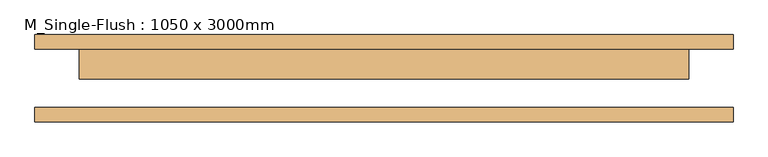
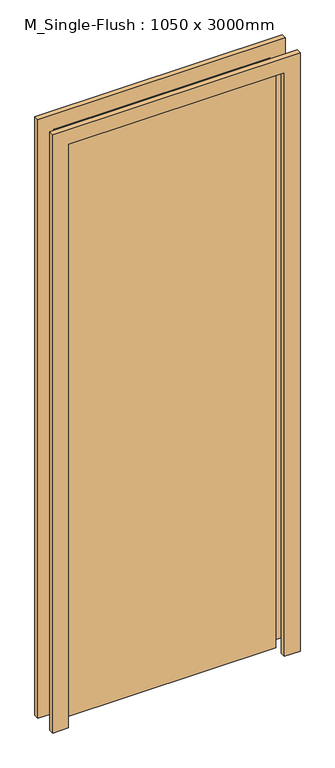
"""IFC4 building model written with IfcOpenShell, lengths in millimetres: door geometry, M_Single-Flush : 1050 x 3000mm."""

from ifc_helpers import new_model, si_unit, frame, origin, origin_with_axes, place, context, project, spatial, polyline, outline, extrude, source, transform, mapped, element, save


def m_single_flush_1050_x_3000mm_ec5adb8e(model_context):
    return source(origin(), model_context, "Body", "SweptSolid", [
        extrude(outline(polyline([(3076.0, -601.0), (0.0, -601.0), (0.0, -525.0), (3000.0, -525.0), (3000.0, 525.0), (0.0, 525.0), (0.0, 601.0), (3076.0, 601.0), (3076.0, -601.0)])), frame((0.0, 50.0, 0.0), z_axis=(0.0, 1.0, 0.0), x_axis=(0.0, 0.0, 1.0)), (0.0, 0.0, 1.0), 25.0),
        extrude(outline(polyline([(3076.0, 601.0), (3076.0, -601.0), (0.0, -601.0), (0.0, -525.0), (3000.0, -525.0), (3000.0, 525.0), (0.0, 525.0), (0.0, 601.0), (3076.0, 601.0)])), frame((0.0, -75.0, 0.0), z_axis=(0.0, 1.0, 0.0), x_axis=(0.0, 0.0, 1.0)), (0.0, 0.0, 1.0), 25.0),
        extrude(outline(polyline([(525.0, -1.0), (-525.0, -1.0), (-525.0, 50.0), (525.0, 50.0), (525.0, -1.0)])), origin_with_axes(), (0.0, 0.0, 1.0), 3000.0),
    ])


if __name__ == "__main__":
    model = new_model("IFC4")
    model_context = context("Model", 3, world=origin())
    ifc_project = project(units=[si_unit("LENGTHUNIT", "METRE", prefix="MILLI")], contexts=[model_context])
    site = spatial("IfcSite", under=ifc_project)
    building = spatial("IfcBuilding", under=site)
    placement = place(None, origin())
    m_single_flush_1050_x_3000mm_shape = m_single_flush_1050_x_3000mm_ec5adb8e(model_context)
    element("IfcDoor", 1, ObjectType="M_Single-Flush : 1050 x 3000mm", at=placement, inside=building, context=model_context, shape_type="MappedRepresentation", body=[
        mapped(m_single_flush_1050_x_3000mm_shape, transform((0.0, 0.0, 0.0), x_axis=(1.0, 0.0, 0.0), y_axis=(0.0, 1.0, 0.0), z_axis=(0.0, 0.0, 1.0))),
    ])
    save(model, "model.ifc")
